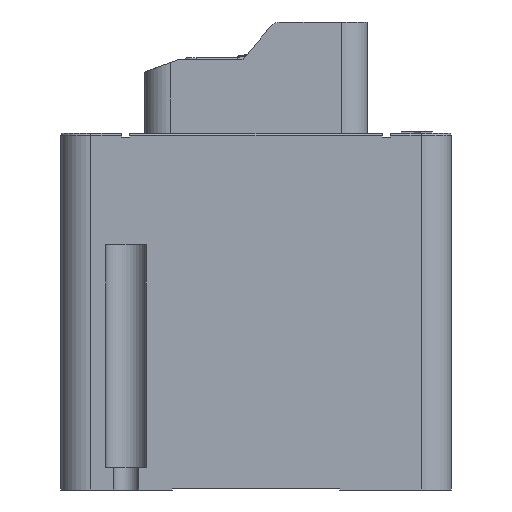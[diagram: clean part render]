
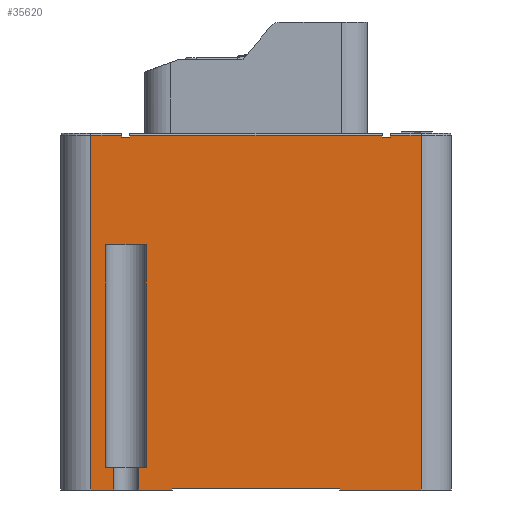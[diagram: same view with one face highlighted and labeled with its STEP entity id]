
A CAD part, left-side view. The second image highlights one B-rep face of the part: STEP entity #35620.
In plain terms, the highlighted planar face has unit normal (-1, 0, 0).
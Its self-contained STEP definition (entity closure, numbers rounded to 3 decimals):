
#28351=CARTESIAN_POINT('',(-42.5,-44.5,95.2));
#28352=VERTEX_POINT('',#28351);
#28385=CARTESIAN_POINT('',(-42.5,-36.2,95.2));
#28386=VERTEX_POINT('',#28385);
#28394=CARTESIAN_POINT('',(-42.5,-36.2,95.2));
#28395=DIRECTION('',(0.0,-1.0,0.0));
#28396=VECTOR('',#28395,8.3);
#28397=LINE('',#28394,#28396);
#28398=EDGE_CURVE('',#28386,#28352,#28397,.T.);
#28529=CARTESIAN_POINT('',(-42.5,36.2,95.2));
#28530=VERTEX_POINT('',#28529);
#28548=CARTESIAN_POINT('',(-42.5,44.5,95.2));
#28549=VERTEX_POINT('',#28548);
#28557=CARTESIAN_POINT('',(-42.5,44.5,95.2));
#28558=DIRECTION('',(0.0,-1.0,0.0));
#28559=VECTOR('',#28558,8.3);
#28560=LINE('',#28557,#28559);
#28561=EDGE_CURVE('',#28549,#28530,#28560,.T.);
#28738=CARTESIAN_POINT('',(-42.5,-34.,95.2));
#28739=VERTEX_POINT('',#28738);
#28747=CARTESIAN_POINT('',(-42.5,-34.,94.7));
#28748=VERTEX_POINT('',#28747);
#28749=CARTESIAN_POINT('',(-42.5,-34.,94.7));
#28750=DIRECTION('',(0.0,0.0,1.0));
#28751=VECTOR('',#28750,0.5);
#28752=LINE('',#28749,#28751);
#28753=EDGE_CURVE('',#28748,#28739,#28752,.T.);
#28777=CARTESIAN_POINT('',(-42.5,34.,95.2));
#28778=VERTEX_POINT('',#28777);
#28786=CARTESIAN_POINT('',(-42.5,34.,95.2));
#28787=DIRECTION('',(0.0,-1.0,0.0));
#28788=VECTOR('',#28787,68.0);
#28789=LINE('',#28786,#28788);
#28790=EDGE_CURVE('',#28778,#28739,#28789,.T.);
#28803=CARTESIAN_POINT('',(-42.5,36.2,94.7));
#28804=VERTEX_POINT('',#28803);
#28805=CARTESIAN_POINT('',(-42.5,36.2,94.7));
#28806=DIRECTION('',(0.0,0.0,1.0));
#28807=VECTOR('',#28806,0.5);
#28808=LINE('',#28805,#28807);
#28809=EDGE_CURVE('',#28804,#28530,#28808,.T.);
#28849=CARTESIAN_POINT('',(-42.5,34.,94.7));
#28850=VERTEX_POINT('',#28849);
#28851=CARTESIAN_POINT('',(-42.5,34.0,94.7));
#28852=DIRECTION('',(0.0,1.0,0.0));
#28853=VECTOR('',#28852,2.2);
#28854=LINE('',#28851,#28853);
#28855=EDGE_CURVE('',#28850,#28804,#28854,.T.);
#28879=CARTESIAN_POINT('',(-42.5,34.,95.2));
#28880=DIRECTION('',(0.0,0.0,-1.0));
#28881=VECTOR('',#28880,0.5);
#28882=LINE('',#28879,#28881);
#28883=EDGE_CURVE('',#28778,#28850,#28882,.T.);
#28904=CARTESIAN_POINT('',(-42.5,-36.2,94.7));
#28905=VERTEX_POINT('',#28904);
#28906=CARTESIAN_POINT('',(-42.5,-36.2,94.7));
#28907=DIRECTION('',(0.0,1.0,0.0));
#28908=VECTOR('',#28907,2.2);
#28909=LINE('',#28906,#28908);
#28910=EDGE_CURVE('',#28905,#28748,#28909,.T.);
#28936=CARTESIAN_POINT('',(-42.5,-36.2,95.2));
#28937=DIRECTION('',(0.0,0.0,-1.0));
#28938=VECTOR('',#28937,0.5);
#28939=LINE('',#28936,#28938);
#28940=EDGE_CURVE('',#28386,#28905,#28939,.T.);
#29542=CARTESIAN_POINT('',(-42.5,29.55,65.7));
#29543=VERTEX_POINT('',#29542);
#29550=CARTESIAN_POINT('',(-42.5,40.45,65.7));
#29551=VERTEX_POINT('',#29550);
#29552=CARTESIAN_POINT('',(-42.5,29.55,65.7));
#29553=DIRECTION('',(0.0,1.0,0.0));
#29554=VECTOR('',#29553,10.9);
#29555=LINE('',#29552,#29554);
#29556=EDGE_CURVE('',#29543,#29551,#29555,.T.);
#35328=CARTESIAN_POINT('',(-42.5,31.6,-0.3));
#35329=VERTEX_POINT('',#35328);
#35338=CARTESIAN_POINT('',(-42.5,31.6,5.7));
#35339=VERTEX_POINT('',#35338);
#35340=CARTESIAN_POINT('',(-42.5,31.6,5.7));
#35341=DIRECTION('',(0.0,0.0,-1.0));
#35342=VECTOR('',#35341,6.);
#35343=LINE('',#35340,#35342);
#35344=EDGE_CURVE('',#35339,#35329,#35343,.T.);
#35401=CARTESIAN_POINT('',(-42.5,38.4,-0.3));
#35402=VERTEX_POINT('',#35401);
#35410=CARTESIAN_POINT('',(-42.5,38.4,5.7));
#35411=VERTEX_POINT('',#35410);
#35418=CARTESIAN_POINT('',(-42.5,38.4,-0.3));
#35419=DIRECTION('',(0.0,0.0,1.0));
#35420=VECTOR('',#35419,6.);
#35421=LINE('',#35418,#35420);
#35422=EDGE_CURVE('',#35402,#35411,#35421,.T.);
#35485=CARTESIAN_POINT('',(-42.5,29.55,5.7));
#35486=VERTEX_POINT('',#35485);
#35487=CARTESIAN_POINT('',(-42.5,29.55,5.7));
#35488=DIRECTION('',(0.0,1.0,0.0));
#35489=VECTOR('',#35488,2.05);
#35490=LINE('',#35487,#35489);
#35491=EDGE_CURVE('',#35486,#35339,#35490,.T.);
#35510=CARTESIAN_POINT('',(-42.5,40.45,5.7));
#35511=VERTEX_POINT('',#35510);
#35518=CARTESIAN_POINT('',(-42.5,38.4,5.7));
#35519=DIRECTION('',(0.0,1.0,0.0));
#35520=VECTOR('',#35519,2.05);
#35521=LINE('',#35518,#35520);
#35522=EDGE_CURVE('',#35411,#35511,#35521,.T.);
#35527=CARTESIAN_POINT('',(-42.5,-52.5,0.0));
#35528=DIRECTION('',(-1.0,0.0,0.0));
#35529=DIRECTION('',(0.0,0.0,1.0));
#35530=AXIS2_PLACEMENT_3D('',#35527,#35528,#35529);
#35531=PLANE('',#35530);
#35532=ORIENTED_EDGE('',*,*,#35344,.T.);
#35533=CARTESIAN_POINT('',(-42.5,22.5,-0.3));
#35534=VERTEX_POINT('',#35533);
#35535=CARTESIAN_POINT('',(-42.5,31.6,-0.3));
#35536=DIRECTION('',(0.0,-1.0,0.0));
#35537=VECTOR('',#35536,9.1);
#35538=LINE('',#35535,#35537);
#35539=EDGE_CURVE('',#35329,#35534,#35538,.T.);
#35540=ORIENTED_EDGE('',*,*,#35539,.T.);
#35541=CARTESIAN_POINT('',(-42.5,22.5,0.0));
#35542=VERTEX_POINT('',#35541);
#35543=CARTESIAN_POINT('',(-42.5,22.5,0.0));
#35544=DIRECTION('',(0.0,0.0,-1.0));
#35545=VECTOR('',#35544,0.3);
#35546=LINE('',#35543,#35545);
#35547=EDGE_CURVE('',#35542,#35534,#35546,.T.);
#35548=ORIENTED_EDGE('',*,*,#35547,.F.);
#35549=CARTESIAN_POINT('',(-42.5,-22.5,0.0));
#35550=VERTEX_POINT('',#35549);
#35551=CARTESIAN_POINT('',(-42.5,-22.5,0.0));
#35552=DIRECTION('',(0.0,1.0,0.0));
#35553=VECTOR('',#35552,45.0);
#35554=LINE('',#35551,#35553);
#35555=EDGE_CURVE('',#35550,#35542,#35554,.T.);
#35556=ORIENTED_EDGE('',*,*,#35555,.F.);
#35557=CARTESIAN_POINT('',(-42.5,-22.5,-0.3));
#35558=VERTEX_POINT('',#35557);
#35559=CARTESIAN_POINT('',(-42.5,-22.5,0.0));
#35560=DIRECTION('',(0.0,0.0,-1.0));
#35561=VECTOR('',#35560,0.3);
#35562=LINE('',#35559,#35561);
#35563=EDGE_CURVE('',#35550,#35558,#35562,.T.);
#35564=ORIENTED_EDGE('',*,*,#35563,.T.);
#35565=CARTESIAN_POINT('',(-42.5,-44.5,-0.3));
#35566=VERTEX_POINT('',#35565);
#35567=CARTESIAN_POINT('',(-42.5,-22.5,-0.3));
#35568=DIRECTION('',(0.0,-1.0,0.0));
#35569=VECTOR('',#35568,22.);
#35570=LINE('',#35567,#35569);
#35571=EDGE_CURVE('',#35558,#35566,#35570,.T.);
#35572=ORIENTED_EDGE('',*,*,#35571,.T.);
#35573=CARTESIAN_POINT('',(-42.5,-44.5,95.2));
#35574=DIRECTION('',(0.0,0.0,-1.0));
#35575=VECTOR('',#35574,95.5);
#35576=LINE('',#35573,#35575);
#35577=EDGE_CURVE('',#28352,#35566,#35576,.T.);
#35578=ORIENTED_EDGE('',*,*,#35577,.F.);
#35579=ORIENTED_EDGE('',*,*,#28398,.F.);
#35580=ORIENTED_EDGE('',*,*,#28940,.T.);
#35581=ORIENTED_EDGE('',*,*,#28910,.T.);
#35582=ORIENTED_EDGE('',*,*,#28753,.T.);
#35583=ORIENTED_EDGE('',*,*,#28790,.F.);
#35584=ORIENTED_EDGE('',*,*,#28883,.T.);
#35585=ORIENTED_EDGE('',*,*,#28855,.T.);
#35586=ORIENTED_EDGE('',*,*,#28809,.T.);
#35587=ORIENTED_EDGE('',*,*,#28561,.F.);
#35588=CARTESIAN_POINT('',(-42.5,44.5,-0.3));
#35589=VERTEX_POINT('',#35588);
#35590=CARTESIAN_POINT('',(-42.5,44.5,-0.3));
#35591=DIRECTION('',(0.0,0.0,1.0));
#35592=VECTOR('',#35591,95.5);
#35593=LINE('',#35590,#35592);
#35594=EDGE_CURVE('',#35589,#28549,#35593,.T.);
#35595=ORIENTED_EDGE('',*,*,#35594,.F.);
#35596=CARTESIAN_POINT('',(-42.5,44.5,-0.3));
#35597=DIRECTION('',(0.0,-1.0,0.0));
#35598=VECTOR('',#35597,6.1);
#35599=LINE('',#35596,#35598);
#35600=EDGE_CURVE('',#35589,#35402,#35599,.T.);
#35601=ORIENTED_EDGE('',*,*,#35600,.T.);
#35602=ORIENTED_EDGE('',*,*,#35422,.T.);
#35603=ORIENTED_EDGE('',*,*,#35522,.T.);
#35604=CARTESIAN_POINT('',(-42.5,40.45,5.7));
#35605=DIRECTION('',(0.0,0.0,1.0));
#35606=VECTOR('',#35605,60.0);
#35607=LINE('',#35604,#35606);
#35608=EDGE_CURVE('',#35511,#29551,#35607,.T.);
#35609=ORIENTED_EDGE('',*,*,#35608,.T.);
#35610=ORIENTED_EDGE('',*,*,#29556,.F.);
#35611=CARTESIAN_POINT('',(-42.5,29.55,65.7));
#35612=DIRECTION('',(0.0,0.0,-1.0));
#35613=VECTOR('',#35612,60.0);
#35614=LINE('',#35611,#35613);
#35615=EDGE_CURVE('',#29543,#35486,#35614,.T.);
#35616=ORIENTED_EDGE('',*,*,#35615,.T.);
#35617=ORIENTED_EDGE('',*,*,#35491,.T.);
#35618=EDGE_LOOP('',(#35532,#35540,#35548,#35556,#35564,#35572,#35578,#35579,#35580,#35581,#35582,#35583,#35584,#35585,#35586,#35587,#35595,#35601,#35602,#35603,#35609,#35610,#35616,#35617));
#35619=FACE_OUTER_BOUND('',#35618,.T.);
#35620=ADVANCED_FACE('',(#35619),#35531,.T.);
